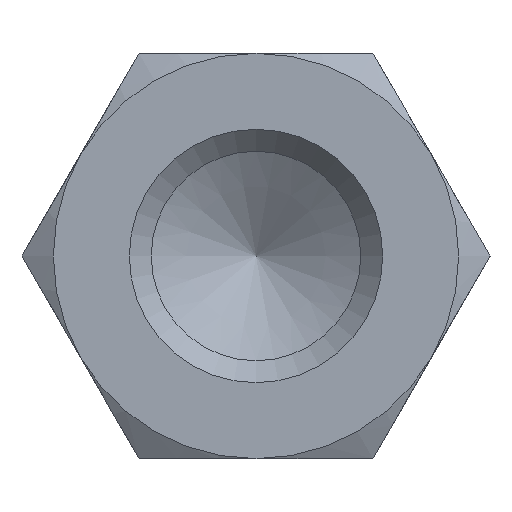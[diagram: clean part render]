
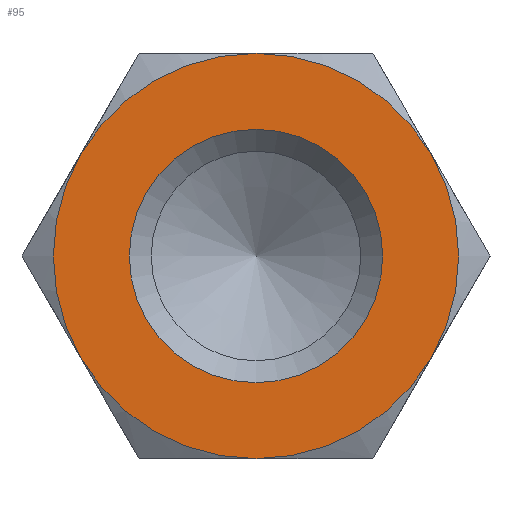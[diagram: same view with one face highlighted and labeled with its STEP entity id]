
A CAD part, left-side view. The second image highlights one B-rep face of the part: STEP entity #95.
In plain terms, the highlighted planar face has unit normal (-1, 0, 0).
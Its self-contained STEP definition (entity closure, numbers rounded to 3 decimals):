
#95 = ADVANCED_FACE( '', ( #147, #148 ), #149, .F. );
#147 = FACE_OUTER_BOUND( '', #206, .T. );
#148 = FACE_BOUND( '', #207, .T. );
#149 = PLANE( '', #208 );
#206 = EDGE_LOOP( '', ( #356, #357, #358, #359, #360, #361 ) );
#207 = EDGE_LOOP( '', ( #362 ) );
#208 = AXIS2_PLACEMENT_3D( '', #363, #364, #365 );
#356 = ORIENTED_EDGE( '', *, *, #440, .F. );
#357 = ORIENTED_EDGE( '', *, *, #425, .F. );
#358 = ORIENTED_EDGE( '', *, *, #441, .F. );
#359 = ORIENTED_EDGE( '', *, *, #437, .F. );
#360 = ORIENTED_EDGE( '', *, *, #442, .F. );
#361 = ORIENTED_EDGE( '', *, *, #443, .F. );
#362 = ORIENTED_EDGE( '', *, *, #439, .T. );
#363 = CARTESIAN_POINT( '', ( -30., 0., 0. ) );
#364 = DIRECTION( '', ( 1., 0., 0. ) );
#365 = DIRECTION( '', ( 0., 0., -1. ) );
#425 = EDGE_CURVE( '', #495, #493, #497, .T. );
#437 = EDGE_CURVE( '', #447, #506, #513, .T. );
#439 = EDGE_CURVE( '', #516, #516, #517, .T. );
#440 = EDGE_CURVE( '', #493, #486, #518, .T. );
#441 = EDGE_CURVE( '', #506, #495, #519, .T. );
#442 = EDGE_CURVE( '', #481, #447, #520, .T. );
#443 = EDGE_CURVE( '', #486, #481, #521, .T. );
#447 = VERTEX_POINT( '', #525 );
#481 = VERTEX_POINT( '', #595 );
#486 = VERTEX_POINT( '', #611 );
#493 = VERTEX_POINT( '', #632 );
#495 = VERTEX_POINT( '', #637 );
#497 = CIRCLE( '', #644, 4. );
#506 = VERTEX_POINT( '', #670 );
#513 = CIRCLE( '', #701, 4. );
#516 = VERTEX_POINT( '', #704 );
#517 = CIRCLE( '', #705, 2.5 );
#518 = CIRCLE( '', #706, 4. );
#519 = CIRCLE( '', #707, 4. );
#520 = CIRCLE( '', #708, 4. );
#521 = CIRCLE( '', #709, 4. );
#525 = CARTESIAN_POINT( '', ( -30., -3.464, 2. ) );
#595 = CARTESIAN_POINT( '', ( -30., 0., 4. ) );
#611 = CARTESIAN_POINT( '', ( -30., 3.464, 2. ) );
#632 = CARTESIAN_POINT( '', ( -30., 3.464, -2. ) );
#637 = CARTESIAN_POINT( '', ( -30., 0., -4. ) );
#644 = AXIS2_PLACEMENT_3D( '', #744, #745, #746 );
#670 = CARTESIAN_POINT( '', ( -30., -3.464, -2. ) );
#701 = AXIS2_PLACEMENT_3D( '', #749, #750, #751 );
#704 = CARTESIAN_POINT( '', ( -30., 2.5, 0. ) );
#705 = AXIS2_PLACEMENT_3D( '', #755, #756, #757 );
#706 = AXIS2_PLACEMENT_3D( '', #758, #759, #760 );
#707 = AXIS2_PLACEMENT_3D( '', #761, #762, #763 );
#708 = AXIS2_PLACEMENT_3D( '', #764, #765, #766 );
#709 = AXIS2_PLACEMENT_3D( '', #767, #768, #769 );
#744 = CARTESIAN_POINT( '', ( -30., 0., 0. ) );
#745 = DIRECTION( '', ( 1., 0., 0. ) );
#746 = DIRECTION( '', ( 0., 0., -1. ) );
#749 = CARTESIAN_POINT( '', ( -30., 0., 0. ) );
#750 = DIRECTION( '', ( 1., 0., 0. ) );
#751 = DIRECTION( '', ( 0., 0., -1. ) );
#755 = CARTESIAN_POINT( '', ( -30., 0., 0. ) );
#756 = DIRECTION( '', ( 1., 0., 0. ) );
#757 = DIRECTION( '', ( 0., 1., 0. ) );
#758 = CARTESIAN_POINT( '', ( -30., 0., 0. ) );
#759 = DIRECTION( '', ( 1., 0., 0. ) );
#760 = DIRECTION( '', ( 0., 0., -1. ) );
#761 = CARTESIAN_POINT( '', ( -30., 0., 0. ) );
#762 = DIRECTION( '', ( 1., 0., 0. ) );
#763 = DIRECTION( '', ( 0., 0., -1. ) );
#764 = CARTESIAN_POINT( '', ( -30., 0., 0. ) );
#765 = DIRECTION( '', ( 1., 0., 0. ) );
#766 = DIRECTION( '', ( 0., 0., -1. ) );
#767 = CARTESIAN_POINT( '', ( -30., 0., 0. ) );
#768 = DIRECTION( '', ( 1., 0., 0. ) );
#769 = DIRECTION( '', ( 0., 0., -1. ) );
